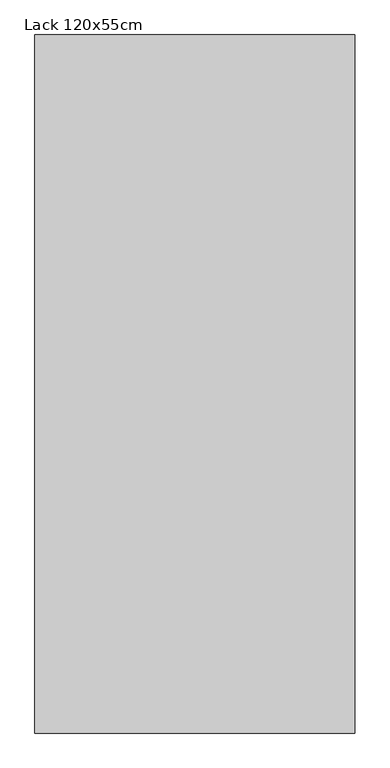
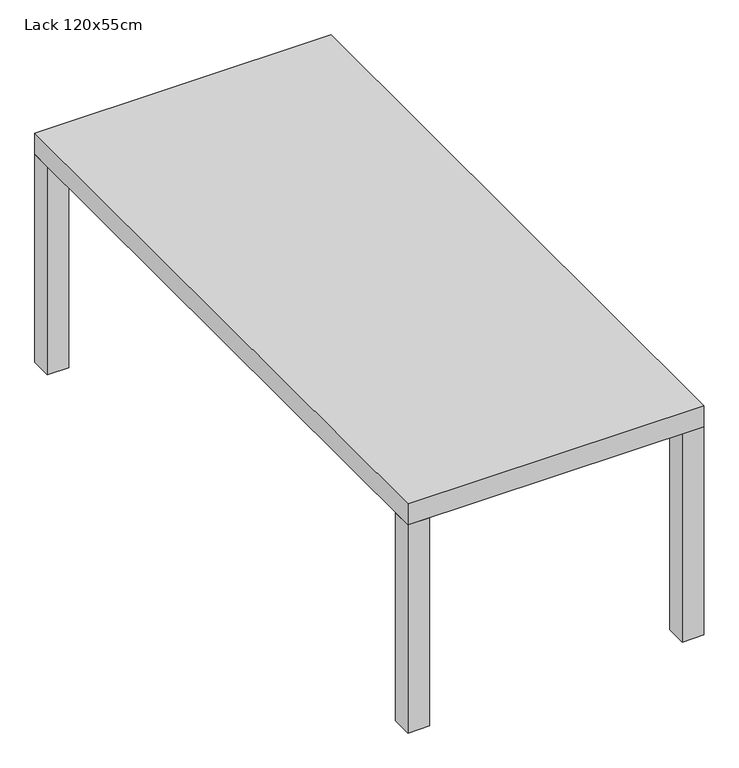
"""IFC4 building model written with IfcOpenShell, lengths in millimetres: furniture geometry, KonferencniStolek : Lack 120x55cm."""

from ifc_helpers import new_model, si_unit, frame, origin, origin_with_axes, place, context, project, spatial, polyline, outline, extrude, source, transform, mapped, element, save


def lack_120x55cm_a48caeea(model_context):
    return source(origin(), model_context, "Body", "SweptSolid", [
        extrude(outline(polyline([(-74.0981188, 239.3758368), (-74.0981188, -960.6241632), (-624.0981188, -960.6241632), (-624.0981188, 239.3758368), (-74.0981188, 239.3758368)])), frame((0.0, 0.0, 408.6), z_axis=(0.0, 0.0, 1.0), x_axis=(1.0, 0.0, 0.0)), (0.0, 0.0, 1.0), 41.4),
        extrude(outline(polyline([(-584.0981188, 239.3758368), (-584.0981188, 199.3758368), (-624.0981188, 199.3758368), (-624.0981188, 239.3758368), (-584.0981188, 239.3758368)])), origin_with_axes(), (0.0, 0.0, 1.0), 408.6),
        extrude(outline(polyline([(-74.0981188, 239.3758368), (-74.0981188, 199.3758368), (-114.0981188, 199.3758368), (-114.0981188, 239.3758368), (-74.0981188, 239.3758368)])), origin_with_axes(), (0.0, 0.0, 1.0), 408.6),
        extrude(outline(polyline([(-74.0981188, -920.6241632), (-74.0981188, -960.6241632), (-114.0981188, -960.6241632), (-114.0981188, -920.6241632), (-74.0981188, -920.6241632)])), origin_with_axes(), (0.0, 0.0, 1.0), 408.6),
        extrude(outline(polyline([(-624.0981188, -920.6241632), (-584.0981188, -920.6241632), (-584.0981188, -960.6241632), (-624.0981188, -960.6241632), (-624.0981188, -920.6241632)])), origin_with_axes(), (0.0, 0.0, 1.0), 408.6),
    ])


if __name__ == "__main__":
    model = new_model("IFC4")
    model_context = context("Model", 3, world=origin())
    ifc_project = project(units=[si_unit("LENGTHUNIT", "METRE", prefix="MILLI")], contexts=[model_context])
    site = spatial("IfcSite", under=ifc_project)
    building = spatial("IfcBuilding", under=site)
    placement = place(None, origin())
    lack_120x55cm_shape = lack_120x55cm_a48caeea(model_context)
    element("IfcFurniture", 1, ObjectType="KonferencniStolek : Lack 120x55cm", at=placement, inside=building, context=model_context, shape_type="MappedRepresentation", body=[
        mapped(lack_120x55cm_shape, transform((0.0, 0.0, 0.0), x_axis=(1.0, 0.0, 0.0), y_axis=(0.0, 1.0, 0.0), z_axis=(0.0, 0.0, 1.0))),
    ])
    save(model, "model.ifc")
